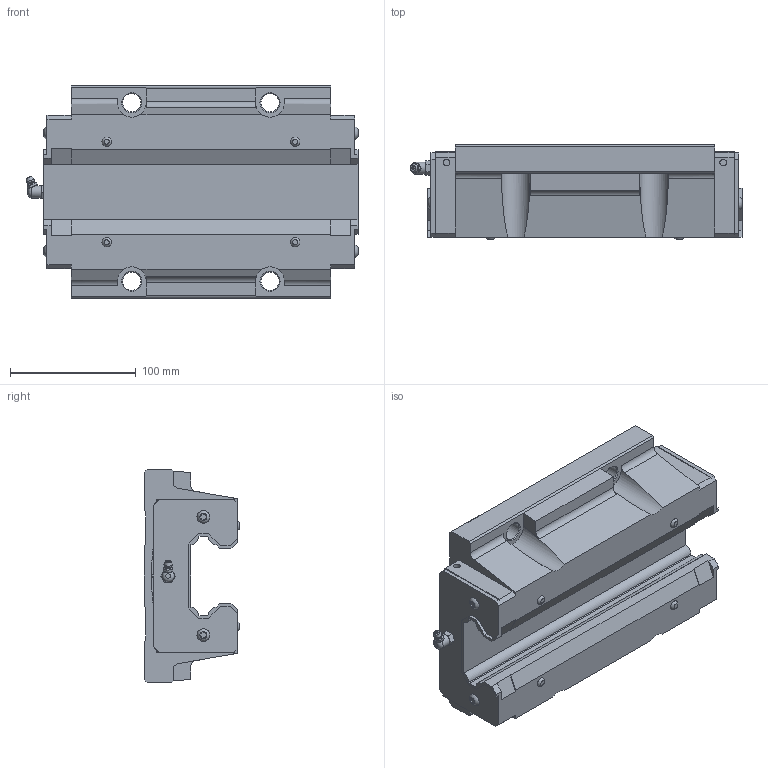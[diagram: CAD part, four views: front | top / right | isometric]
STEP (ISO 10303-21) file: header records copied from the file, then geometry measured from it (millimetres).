
FILE_DESCRIPTION(/* description */ ('STEP AP203'),/* implementation_level */ '2;1');
FILE_NAME(/* name */ 'HSR65XLC1SS(GK) BLOCK(1B-PT1_8)',/* time_stamp */ '2024-05-21T04:59:31+02:00',/* author */ ('License CC BY-ND 4.0'),/* organization */ ('CADENAS'),/* preprocessor_version */ 'ST-DEVELOPER v19.3',/* originating_system */ 'PARTsolutions',/* authorisation */ ' ');
FILE_SCHEMA (('CONFIG_CONTROL_DESIGN'));
Length unit declared in the file: millimetre
Products named in the file (3): HSR65XLC1SS(GK) BLOCK(1B-PT1/8); HSR65XLCSSB-PT1/811 S; hsr_ftht_B-PT1/8_grease_nipple_joint
Assembly tree (2 placements, depth 2):
  HSR65XLC1SS(GK) BLOCK(1B-PT1/8)
    HSR65XLCSSB-PT1/811 S
    hsr_ftht_B-PT1/8_grease_nipple_joint
Bounding box: 264.2 x 76 x 170 mm (x, y, z)
Volume: 2019791.6 mm3; surface area: 159128.3 mm2
Topology: 2 solids, 2 shells, 269 faces, 708 edges, 463 vertices
Faces by surface type: plane 203, cylinder 33, cone 20, torus 11, sphere 2
Full cylindrical faces by diameter (mm): 5.2 x4, 9.6 x1, 10.2 x2, 14.5 x4
Entity records: 8008 total; most frequent: CARTESIAN_POINT 1519, ORIENTED_EDGE 1294, DIRECTION 1270, EDGE_CURVE 647, LINE 498, VECTOR 498, VERTEX_POINT 448, AXIS2_PLACEMENT_3D 386
